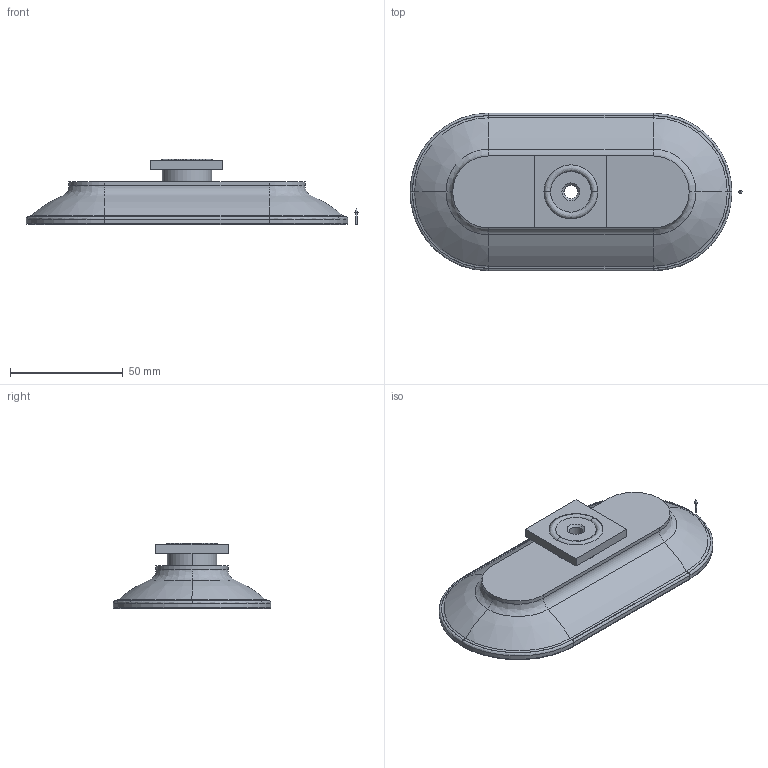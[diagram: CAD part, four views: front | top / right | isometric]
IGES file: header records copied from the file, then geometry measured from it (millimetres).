
Start section: 3D InterOp IGES (v. 2018 1.0.2), Spatial Corp. Copyright (c) 1999-2017.
Global section: file name: schmalz_10_01_05_00606_7jcpze7hk2lh26vuqf5m3ju89.igs; native system: Spatial Corp.; preprocessor: 3D InterOp ACIS/IGES; author: TraceParts; organization: TraceParts S.A.; date: 20181101.064512; units: millimetre
Bounding box: 147.5 x 70 x 29 mm (x, y, z)
Surface area: 25172.3 mm2 (no closed solid volume)
Topology: 0 solids, 0 shells, 90 faces, 390 edges, 388 vertices
Faces by surface type: revolution 70, extrusion 20
